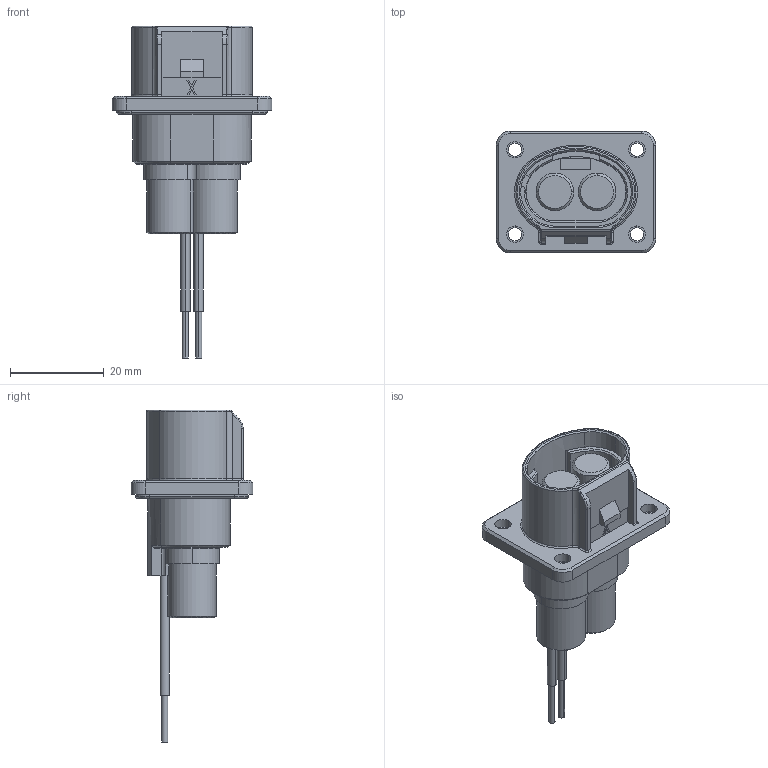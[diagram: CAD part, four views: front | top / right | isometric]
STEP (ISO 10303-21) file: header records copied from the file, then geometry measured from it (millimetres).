
FILE_DESCRIPTION((''),'2;1');
FILE_NAME('PL082X-41_ASM_ASM','2017-11-23T',('jenna.liu'),(''),'CREO PARAMETRIC BY PTC INC, 2014190','CREO PARAMETRIC BY PTC INC, 2014190','');
FILE_SCHEMA(('CONFIG_CONTROL_DESIGN'));
Length unit declared in the file: millimetre
Products named in the file (1): PL082X-41_ASM_ASM
Bounding box: 34 x 26 x 70.77 mm (x, y, z)
Volume: 10953.8 mm3; surface area: 10586 mm2
Topology: 1 solids, 8 shells, 520 faces, 1373 edges, 877 vertices
Faces by surface type: cylinder 203, plane 185, torus 69, cone 54, extrusion 5, bspline 4
Entity records: 16808 total; most frequent: CARTESIAN_POINT 3388, DIRECTION 3007, ORIENTED_EDGE 2738, EDGE_CURVE 1369, AXIS2_PLACEMENT_3D 1188, VERTEX_POINT 877, CIRCLE 677, VECTOR 631
